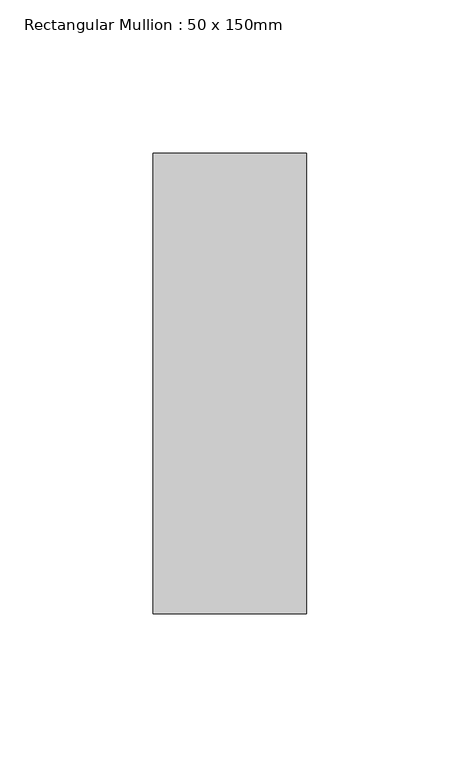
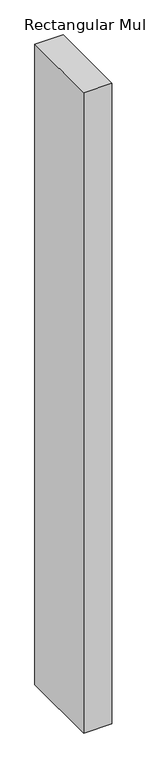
"""IFC4 building model written with IfcOpenShell, lengths in millimetres: member geometry, Rectangular Mullion : 50 x 150mm."""

from ifc_helpers import new_model, si_unit, frame, origin, place, context, project, spatial, polyline, outline, extrude, source, transform, mapped, element, save


def rectangular_mullion_50_x_150mm_d99dc9be(model_context):
    return source(origin(), model_context, "Body", "SweptSolid", [
        extrude(outline(polyline([(25.0, 75.0), (25.0, -75.0), (-25.0, -75.0), (-25.0, 75.0), (25.0, 75.0)])), frame((0.0, 0.0, -1200.0), z_axis=(0.0, 0.0, 1.0), x_axis=(1.0, 0.0, 0.0)), (0.0, 0.0, 1.0), 1200.0),
    ])


if __name__ == "__main__":
    model = new_model("IFC4")
    model_context = context("Model", 3, world=origin())
    ifc_project = project(units=[si_unit("LENGTHUNIT", "METRE", prefix="MILLI")], contexts=[model_context])
    site = spatial("IfcSite", under=ifc_project)
    building = spatial("IfcBuilding", under=site)
    placement = place(None, origin())
    rectangular_mullion_50_x_150mm_shape = rectangular_mullion_50_x_150mm_d99dc9be(model_context)
    element("IfcMember", 1, ObjectType="Rectangular Mullion : 50 x 150mm", at=placement, inside=building, context=model_context, shape_type="MappedRepresentation", body=[
        mapped(rectangular_mullion_50_x_150mm_shape, transform((0.0, 0.0, 0.0), x_axis=(1.0, 0.0, 0.0), y_axis=(0.0, 1.0, 0.0), z_axis=(0.0, 0.0, 1.0))),
    ])
    save(model, "model.ifc")
